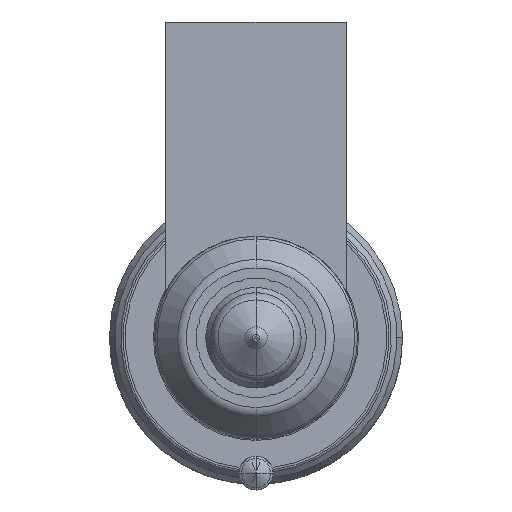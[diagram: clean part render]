
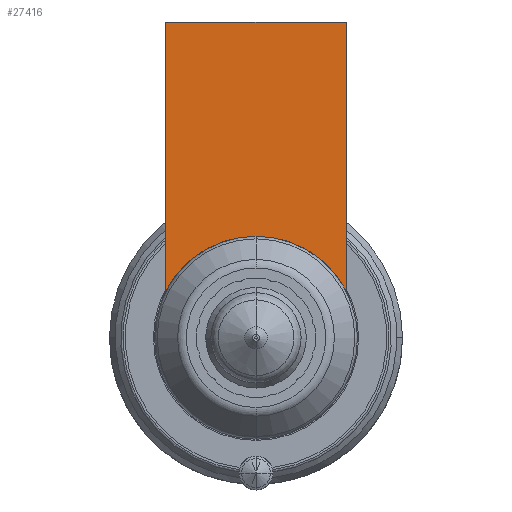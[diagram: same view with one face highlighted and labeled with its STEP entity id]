
A CAD part, front view. The second image highlights one B-rep face of the part: STEP entity #27416.
In plain terms, the highlighted planar face has unit normal (0, -1, 0).
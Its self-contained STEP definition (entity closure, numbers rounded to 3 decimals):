
#26605=DIRECTION('',(1.,0.,0.));
#26606=VECTOR('',#26605,16.);
#26607=CARTESIAN_POINT('',(-8.,-54.,28.));
#26608=LINE('',#26607,#26606);
#26613=CARTESIAN_POINT('',(0.,-54.,0.));
#26614=DIRECTION('',(0.,-1.,0.));
#26615=DIRECTION('',(0.889,0.,0.458));
#26616=AXIS2_PLACEMENT_3D('',#26613,#26614,#26615);
#26621=CARTESIAN_POINT('',(0.,-54.,0.));
#26622=DIRECTION('',(0.,-1.,0.));
#26623=DIRECTION('',(0.,0.,1.));
#26624=AXIS2_PLACEMENT_3D('',#26621,#26622,#26623);
#26650=DIRECTION('',(0.,0.,-1.));
#26651=VECTOR('',#26650,23.877);
#26652=CARTESIAN_POINT('',(-8.,-54.,28.));
#26653=LINE('',#26652,#26651);
#27268=DIRECTION('',(0.,0.,-1.));
#27269=VECTOR('',#27268,23.877);
#27270=CARTESIAN_POINT('',(8.,-54.,28.));
#27271=LINE('',#27270,#27269);
#27321=CARTESIAN_POINT('',(-8.,-54.,28.));
#27322=VERTEX_POINT('',#27321);
#27327=CARTESIAN_POINT('',(8.,-54.,28.));
#27328=VERTEX_POINT('',#27327);
#27331=CARTESIAN_POINT('',(-8.,-54.,4.123));
#27332=VERTEX_POINT('',#27331);
#27335=CARTESIAN_POINT('',(8.,-54.,4.123));
#27336=VERTEX_POINT('',#27335);
#27397=CARTESIAN_POINT('',(0.,-54.,9.));
#27398=VERTEX_POINT('',#27397);
#27399=CARTESIAN_POINT('',(0.,-54.,9.));
#27400=DIRECTION('',(0.,1.,0.));
#27401=DIRECTION('',(0.,0.,-1.));
#27402=AXIS2_PLACEMENT_3D('',#27399,#27400,#27401);
#27403=PLANE('',#27402);
#27405=ORIENTED_EDGE('',*,*,#27404,.F.);
#27407=ORIENTED_EDGE('',*,*,#27406,.T.);
#27409=ORIENTED_EDGE('',*,*,#27408,.T.);
#27411=ORIENTED_EDGE('',*,*,#27410,.T.);
#27413=ORIENTED_EDGE('',*,*,#27412,.T.);
#27414=EDGE_LOOP('',(#27405,#27407,#27409,#27411,#27413));
#27415=FACE_OUTER_BOUND('',#27414,.F.);
#27416=ADVANCED_FACE('',(#27415),#27403,.F.);
#26617=CIRCLE('',#26616,9.);
#26625=CIRCLE('',#26624,9.);
#27404=EDGE_CURVE('',#27322,#27332,#26653,.T.);
#27406=EDGE_CURVE('',#27322,#27328,#26608,.T.);
#27408=EDGE_CURVE('',#27328,#27336,#27271,.T.);
#27410=EDGE_CURVE('',#27336,#27398,#26617,.T.);
#27412=EDGE_CURVE('',#27398,#27332,#26625,.T.);
